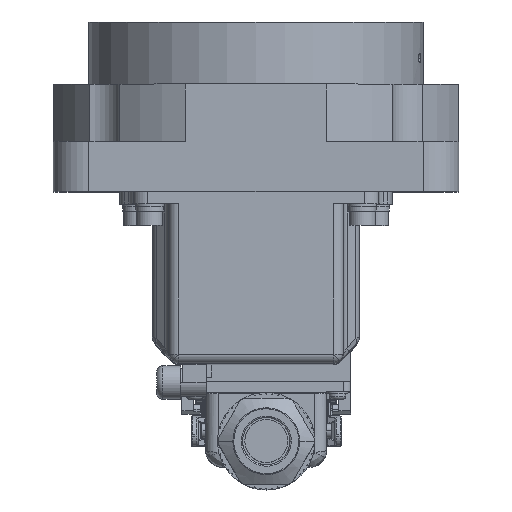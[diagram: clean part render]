
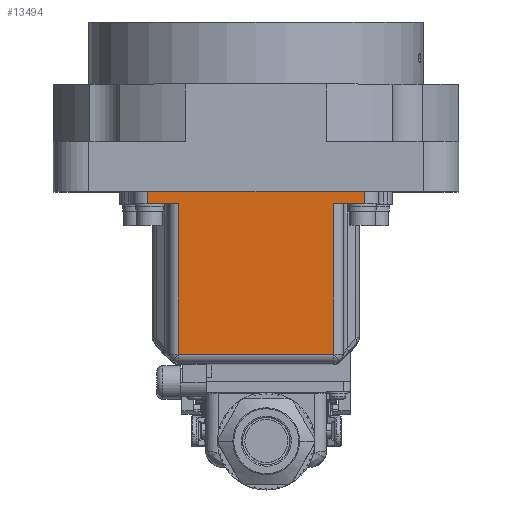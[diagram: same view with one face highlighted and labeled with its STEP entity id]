
A CAD part, top view. The second image highlights one B-rep face of the part: STEP entity #13494.
In plain terms, the highlighted planar face has unit normal (0, 0, 1).
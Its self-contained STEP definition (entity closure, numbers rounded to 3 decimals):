
#744 = LINE ( 'NONE', #14220, #30761 ) ;
#1070 = CARTESIAN_POINT ( 'NONE',  ( -22.75, 12.5, 42. ) ) ;
#1660 = LINE ( 'NONE', #38779, #9817 ) ;
#2090 = CARTESIAN_POINT ( 'NONE',  ( 22.75, 18., 42. ) ) ;
#2527 = DIRECTION ( 'NONE',  ( 0., 0., 1. ) ) ;
#4014 = LINE ( 'NONE', #24108, #16742 ) ;
#4038 = FACE_OUTER_BOUND ( 'NONE', #27292, .T. ) ;
#4826 = CARTESIAN_POINT ( 'NONE',  ( -16.25, -18.998, 42. ) ) ;
#5997 = VERTEX_POINT ( 'NONE', #2090 ) ;
#6012 = CARTESIAN_POINT ( 'NONE',  ( -22.75, 12.5, 42. ) ) ;
#6761 = EDGE_CURVE ( 'NONE', #24697, #5997, #39096, .T. ) ;
#7771 = DIRECTION ( 'NONE',  ( 0., 0., 1. ) ) ;
#8070 = VECTOR ( 'NONE', #10240, 1000. ) ;
#8508 = DIRECTION ( 'NONE',  ( 0., 1., 0. ) ) ;
#9262 = DIRECTION ( 'NONE',  ( 1., 0., 0. ) ) ;
#9484 = CARTESIAN_POINT ( 'NONE',  ( 25.75, 12.5, 42. ) ) ;
#9817 = VECTOR ( 'NONE', #8508, 1000. ) ;
#9842 = CARTESIAN_POINT ( 'NONE',  ( 0., -19., 42. ) ) ;
#10240 = DIRECTION ( 'NONE',  ( 1., 0., 0. ) ) ;
#10456 = LINE ( 'NONE', #30574, #8070 ) ;
#11446 = CARTESIAN_POINT ( 'NONE',  ( -16.25, 12.5, 42. ) ) ;
#11660 = LINE ( 'NONE', #1070, #22288 ) ;
#11702 = DIRECTION ( 'NONE',  ( 1., 0., 0. ) ) ;
#13169 = LINE ( 'NONE', #9842, #36323 ) ;
#13494 = ADVANCED_FACE ( 'NONE', ( #4038 ), #14633, .T. ) ;
#13674 = CIRCLE ( 'NONE', #23547, 25. ) ;
#13835 = VECTOR ( 'NONE', #9262, 1000. ) ;
#14220 = CARTESIAN_POINT ( 'NONE',  ( 16.25, 12.5, 42. ) ) ;
#14348 = AXIS2_PLACEMENT_3D ( 'NONE', #22623, #2527, #29254 ) ;
#14601 = EDGE_CURVE ( 'NONE', #24812, #15457, #34810, .T. ) ;
#14633 = PLANE ( 'NONE',  #24246 ) ;
#14805 = CARTESIAN_POINT ( 'NONE',  ( 22.75, 12.5, 42. ) ) ;
#14851 = CARTESIAN_POINT ( 'NONE',  ( 0., 21., 42. ) ) ;
#15457 = VERTEX_POINT ( 'NONE', #42610 ) ;
#16400 = ORIENTED_EDGE ( 'NONE', *, *, #35955, .T. ) ;
#16504 = ORIENTED_EDGE ( 'NONE', *, *, #14601, .T. ) ;
#16742 = VECTOR ( 'NONE', #31162, 1000. ) ;
#16787 = VERTEX_POINT ( 'NONE', #4826 ) ;
#18092 = DIRECTION ( 'NONE',  ( 0., -1., 0. ) ) ;
#18168 = ORIENTED_EDGE ( 'NONE', *, *, #21415, .T. ) ;
#18334 = VERTEX_POINT ( 'NONE', #40074 ) ;
#18954 = VERTEX_POINT ( 'NONE', #14805 ) ;
#19283 = CARTESIAN_POINT ( 'NONE',  ( -16.248, -19., 42. ) ) ;
#19454 = LINE ( 'NONE', #9484, #13835 ) ;
#20080 = ORIENTED_EDGE ( 'NONE', *, *, #6761, .F. ) ;
#21146 = DIRECTION ( 'NONE',  ( -1., 0., 0. ) ) ;
#21415 = EDGE_CURVE ( 'NONE', #42004, #34835, #10456, .T. ) ;
#22288 = VECTOR ( 'NONE', #18092, 1000. ) ;
#22623 = CARTESIAN_POINT ( 'NONE',  ( 0., 0., 42. ) ) ;
#23330 = DIRECTION ( 'NONE',  ( 1., 0., 0. ) ) ;
#23547 = AXIS2_PLACEMENT_3D ( 'NONE', #27753, #31287, #21146 ) ;
#23824 = EDGE_CURVE ( 'NONE', #16787, #24277, #13674, .T. ) ;
#24108 = CARTESIAN_POINT ( 'NONE',  ( -16.25, 21., 42. ) ) ;
#24246 = AXIS2_PLACEMENT_3D ( 'NONE', #14851, #7771, #28312 ) ;
#24277 = VERTEX_POINT ( 'NONE', #19283 ) ;
#24697 = VERTEX_POINT ( 'NONE', #27557 ) ;
#24812 = VERTEX_POINT ( 'NONE', #39250 ) ;
#24849 = EDGE_CURVE ( 'NONE', #24277, #24812, #13169, .T. ) ;
#27292 = EDGE_LOOP ( 'NONE', ( #37268, #16504, #37175, #16400, #41482, #20080, #31923, #18168, #35528, #29610 ) ) ;
#27557 = CARTESIAN_POINT ( 'NONE',  ( -22.75, 18., 42. ) ) ;
#27753 = CARTESIAN_POINT ( 'NONE',  ( 0., 0., 42. ) ) ;
#28312 = DIRECTION ( 'NONE',  ( -1., 0., 0. ) ) ;
#29254 = DIRECTION ( 'NONE',  ( -1., 0., 0. ) ) ;
#29456 = VECTOR ( 'NONE', #11702, 1000. ) ;
#29610 = ORIENTED_EDGE ( 'NONE', *, *, #23824, .T. ) ;
#30574 = CARTESIAN_POINT ( 'NONE',  ( 25.75, 12.5, 42. ) ) ;
#30761 = VECTOR ( 'NONE', #34111, 1000. ) ;
#31162 = DIRECTION ( 'NONE',  ( 0., -1., 0. ) ) ;
#31287 = DIRECTION ( 'NONE',  ( 0., 0., 1. ) ) ;
#31894 = EDGE_CURVE ( 'NONE', #15457, #18334, #744, .T. ) ;
#31923 = ORIENTED_EDGE ( 'NONE', *, *, #36199, .T. ) ;
#34111 = DIRECTION ( 'NONE',  ( 0., 1., 0. ) ) ;
#34810 = CIRCLE ( 'NONE', #14348, 25. ) ;
#34835 = VERTEX_POINT ( 'NONE', #11446 ) ;
#35078 = EDGE_CURVE ( 'NONE', #18954, #5997, #1660, .T. ) ;
#35528 = ORIENTED_EDGE ( 'NONE', *, *, #43370, .T. ) ;
#35955 = EDGE_CURVE ( 'NONE', #18334, #18954, #19454, .T. ) ;
#36199 = EDGE_CURVE ( 'NONE', #24697, #42004, #11660, .T. ) ;
#36323 = VECTOR ( 'NONE', #23330, 1000. ) ;
#37175 = ORIENTED_EDGE ( 'NONE', *, *, #31894, .T. ) ;
#37268 = ORIENTED_EDGE ( 'NONE', *, *, #24849, .T. ) ;
#38443 = CARTESIAN_POINT ( 'NONE',  ( 25.75, 18., 42. ) ) ;
#38779 = CARTESIAN_POINT ( 'NONE',  ( 22.75, 18., 42. ) ) ;
#39096 = LINE ( 'NONE', #38443, #29456 ) ;
#39250 = CARTESIAN_POINT ( 'NONE',  ( 16.248, -19., 42. ) ) ;
#40074 = CARTESIAN_POINT ( 'NONE',  ( 16.25, 12.5, 42. ) ) ;
#41482 = ORIENTED_EDGE ( 'NONE', *, *, #35078, .T. ) ;
#42004 = VERTEX_POINT ( 'NONE', #6012 ) ;
#42610 = CARTESIAN_POINT ( 'NONE',  ( 16.25, -18.998, 42. ) ) ;
#43370 = EDGE_CURVE ( 'NONE', #34835, #16787, #4014, .T. ) ;
